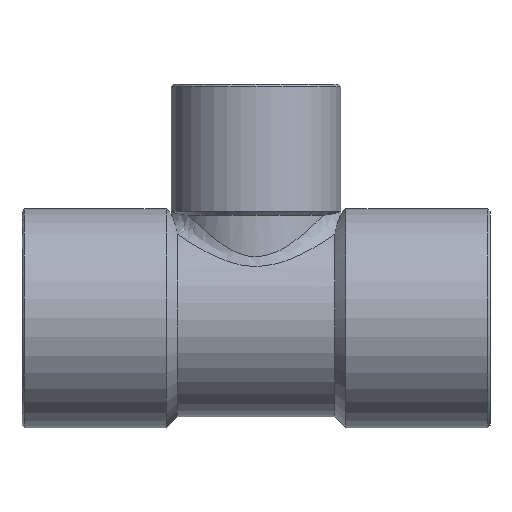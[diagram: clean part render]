
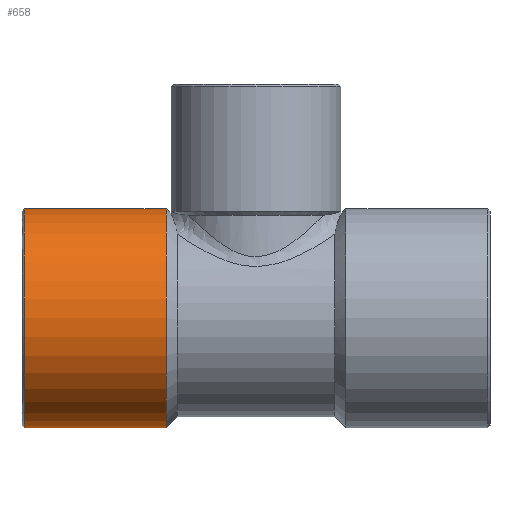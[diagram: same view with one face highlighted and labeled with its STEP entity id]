
A CAD part, top view. The second image highlights one B-rep face of the part: STEP entity #658.
In plain terms, the highlighted cylindrical face has radius 8.9 mm (diameter 17.8 mm), a partial arc.
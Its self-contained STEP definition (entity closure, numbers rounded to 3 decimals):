
#49=CARTESIAN_POINT('',(-7.3,8.9,0.0));
#50=VERTEX_POINT('',#49);
#59=CARTESIAN_POINT('',(-7.3,-8.9,0.));
#60=VERTEX_POINT('',#59);
#61=CARTESIAN_POINT('',(-7.3,0.0,0.0));
#62=DIRECTION('',(1.0,0.0,0.0));
#63=DIRECTION('',(0.0,1.0,0.0));
#64=AXIS2_PLACEMENT_3D('',#61,#62,#63);
#65=CIRCLE('',#64,8.9);
#66=EDGE_CURVE('',#50,#60,#65,.T.);
#627=CARTESIAN_POINT('',(-13.15,0.0,0.0));
#628=DIRECTION('',(1.0,0.0,0.0));
#629=DIRECTION('',(0.0,1.0,0.0));
#630=AXIS2_PLACEMENT_3D('',#627,#628,#629);
#631=CYLINDRICAL_SURFACE('',#630,8.9);
#632=CARTESIAN_POINT('',(-18.8,8.9,0.));
#633=VERTEX_POINT('',#632);
#634=CARTESIAN_POINT('',(-18.8,8.9,0.));
#635=DIRECTION('',(1.0,0.0,0.0));
#636=VECTOR('',#635,11.5);
#637=LINE('',#634,#636);
#638=EDGE_CURVE('',#633,#50,#637,.T.);
#639=ORIENTED_EDGE('',*,*,#638,.F.);
#640=CARTESIAN_POINT('',(-18.8,-8.9,0.));
#641=VERTEX_POINT('',#640);
#642=CARTESIAN_POINT('',(-18.8,0.0,0.0));
#643=DIRECTION('',(-1.0,0.0,0.0));
#644=DIRECTION('',(0.0,-1.0,0.0));
#645=AXIS2_PLACEMENT_3D('',#642,#643,#644);
#646=CIRCLE('',#645,8.9);
#647=EDGE_CURVE('',#641,#633,#646,.T.);
#648=ORIENTED_EDGE('',*,*,#647,.F.);
#649=CARTESIAN_POINT('',(-7.3,-8.9,0.));
#650=DIRECTION('',(-1.0,0.0,0.0));
#651=VECTOR('',#650,11.5);
#652=LINE('',#649,#651);
#653=EDGE_CURVE('',#60,#641,#652,.T.);
#654=ORIENTED_EDGE('',*,*,#653,.F.);
#655=ORIENTED_EDGE('',*,*,#66,.F.);
#656=EDGE_LOOP('',(#639,#648,#654,#655));
#657=FACE_OUTER_BOUND('',#656,.T.);
#658=ADVANCED_FACE('',(#657),#631,.T.);
